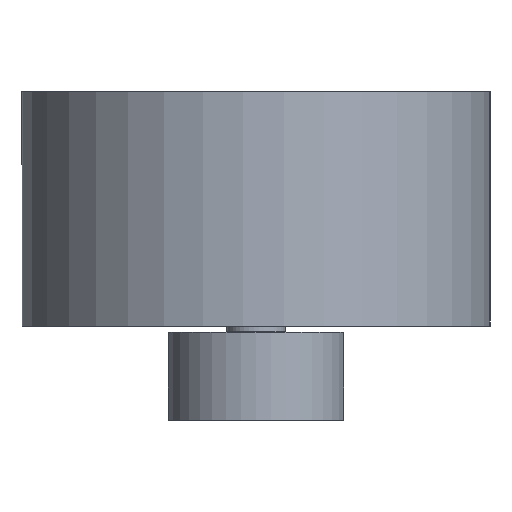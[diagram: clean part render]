
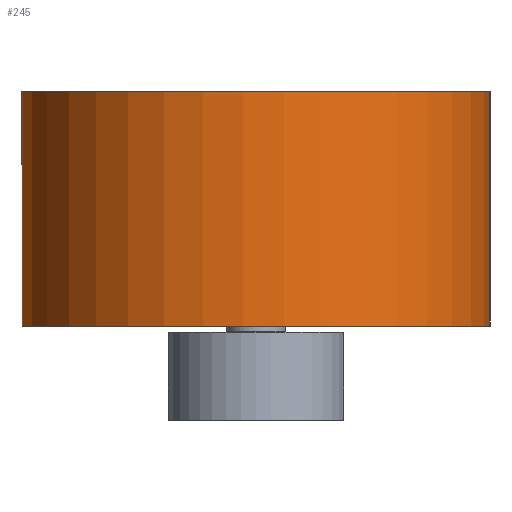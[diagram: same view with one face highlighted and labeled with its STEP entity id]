
A CAD part, left-side view. The second image highlights one B-rep face of the part: STEP entity #245.
In plain terms, the highlighted cylindrical face has radius 40 mm (diameter 80 mm), a full revolution.
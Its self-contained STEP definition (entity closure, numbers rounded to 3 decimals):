
#61=FACE_BOUND('',#102,.T.);
#78=FACE_OUTER_BOUND('',#101,.T.);
#101=EDGE_LOOP('',(#199));
#102=EDGE_LOOP('',(#200));
#119=CIRCLE('',#319,40.);
#120=CIRCLE('',#320,40.);
#137=VERTEX_POINT('',#462);
#138=VERTEX_POINT('',#464);
#159=EDGE_CURVE('',#137,#137,#119,.T.);
#160=EDGE_CURVE('',#138,#138,#120,.T.);
#199=ORIENTED_EDGE('',*,*,#159,.F.);
#200=ORIENTED_EDGE('',*,*,#160,.T.);
#211=CYLINDRICAL_SURFACE('',#318,40.);
#245=ADVANCED_FACE('',(#78,#61),#211,.T.);
#318=AXIS2_PLACEMENT_3D('',#461,#392,#393);
#319=AXIS2_PLACEMENT_3D('',#463,#394,#395);
#320=AXIS2_PLACEMENT_3D('',#465,#396,#397);
#392=DIRECTION('center_axis',(0.,0.,-1.));
#393=DIRECTION('ref_axis',(-1.,0.,0.));
#394=DIRECTION('center_axis',(0.,0.,-1.));
#395=DIRECTION('ref_axis',(-1.,0.,0.));
#396=DIRECTION('center_axis',(0.,0.,-1.));
#397=DIRECTION('ref_axis',(-1.,0.,0.));
#461=CARTESIAN_POINT('Origin',(0.,0.,0.));
#462=CARTESIAN_POINT('',(40.,0.,-40.));
#463=CARTESIAN_POINT('Origin',(0.,0.,-40.));
#464=CARTESIAN_POINT('',(40.,0.,0.));
#465=CARTESIAN_POINT('Origin',(0.,0.,0.));
